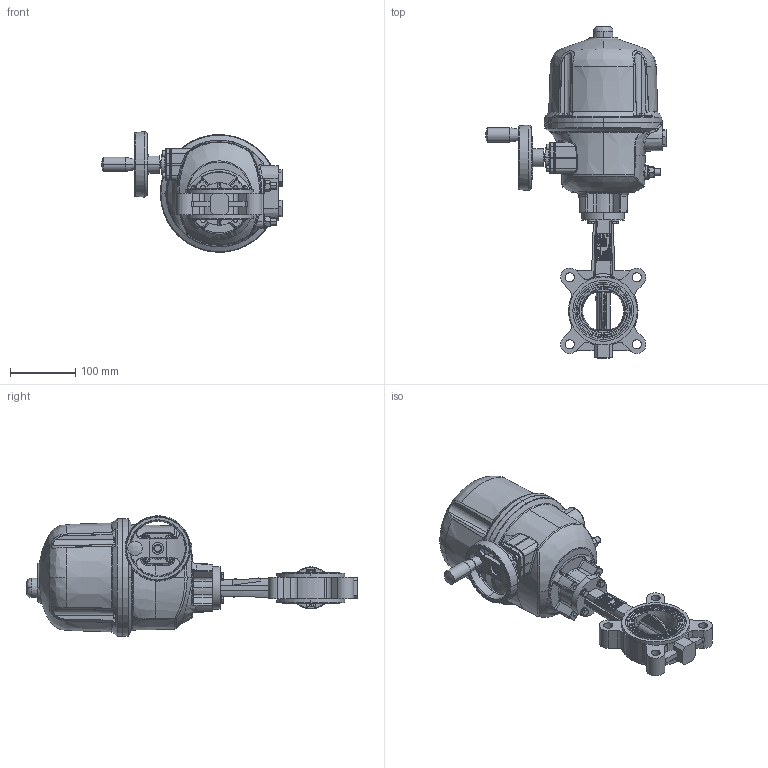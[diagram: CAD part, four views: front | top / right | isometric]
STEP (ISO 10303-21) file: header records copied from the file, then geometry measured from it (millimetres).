
FILE_DESCRIPTION (( 'STEP AP214' ), '1' );
FILE_NAME ('VPG464X-BX4XX0065.step', '2022-09-20T11:28:32', ( '' ), ( '' ), 'SwSTEP 2.0', 'SolidWorks 2020', '' );
FILE_SCHEMA (( 'AUTOMOTIVE_DESIGN' ));
Length unit declared in the file: millimetre
Products named in the file (1): VPG464X-BX4XX0065
Bounding box: 275.33 x 507.68 x 184.42 mm (x, y, z)
Surface area: 298248.7 mm2 (no closed solid volume)
Topology: 0 solids, 75 shells, 1102 faces, 5654 edges, 4483 vertices
Faces by surface type: bspline 405, plane 364, cylinder 209, cone 120, torus 4
Entity records: 104564 total; most frequent: CARTESIAN_POINT 53918, ORIENTED_EDGE 7846, DIRECTION 5990, EDGE_CURVE 5581, VERTEX_POINT 4483, VECTOR 2676, LINE 2676, B_SPLINE_CURVE_WITH_KNOTS 1859
